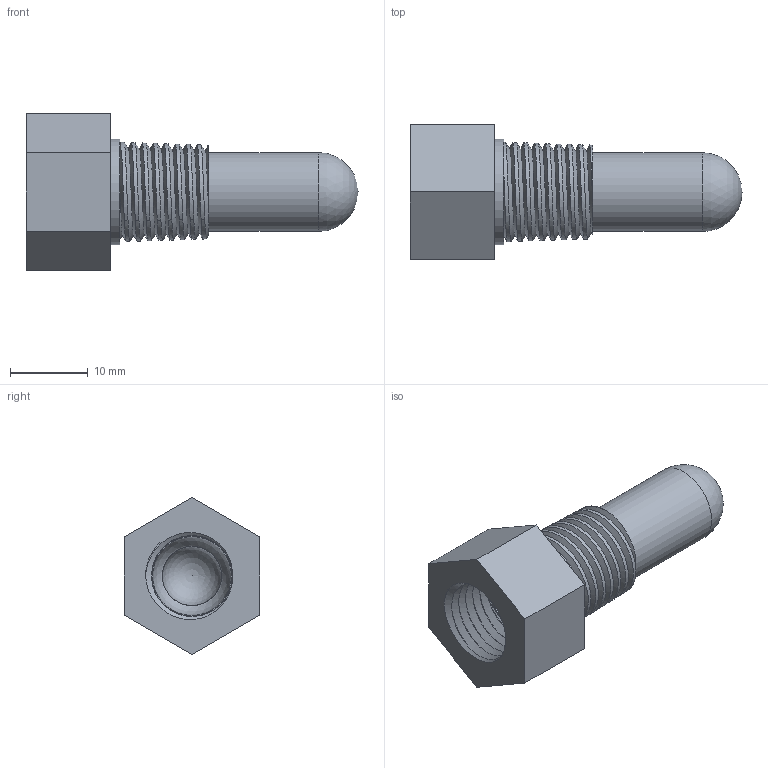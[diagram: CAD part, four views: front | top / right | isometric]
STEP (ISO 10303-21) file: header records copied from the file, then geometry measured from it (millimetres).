
FILE_DESCRIPTION(/* description */ (''),/* implementation_level */ '2;1');
FILE_NAME(/* name */ 'R:\Temp\J. Narvaez\IAN DRAWINGS\002 - Sensors\005 - MCS-WELL\14-002-1_4-5-B.stp',/* time_stamp */ '2022-11-14T09:48:02-05:00',/* author */ ('mjeter'),/* organization */ ('unknown'),/* preprocessor_version */ 'ST-DEVELOPER v19',/* originating_system */ 'Autodesk Inventor 2023',/* authorisation */ '');
FILE_SCHEMA (('AUTOMOTIVE_DESIGN { 1 0 10303 214 3 1 1 }'));
Length unit declared in the file: inch
Products named in the file (1): 14-002-1_4-5-B
Bounding box: 42.74 x 17.46 x 20.16 mm (x, y, z)
Volume: 3501.6 mm3; surface area: 3583.5 mm2
Topology: 1 solids, 1 shells, 32 faces, 86 edges, 58 vertices
Faces by surface type: plane 12, cone 10, cylinder 4, bspline 4, sphere 2
Full cylindrical faces by diameter (mm): 7.62 x1, 10.16 x1, 11.176 x1, 13.589 x1
Entity records: 4343 total; most frequent: CARTESIAN_POINT 3546, ORIENTED_EDGE 168, DIRECTION 129, EDGE_CURVE 84, VERTEX_POINT 58, AXIS2_PLACEMENT_3D 49, EDGE_LOOP 36, B_SPLINE_CURVE_WITH_KNOTS 33
